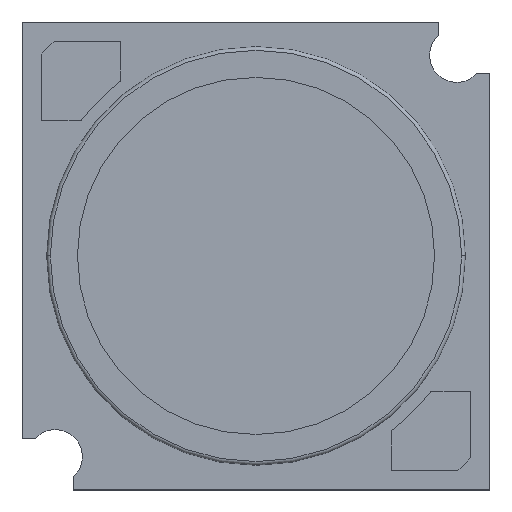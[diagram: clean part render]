
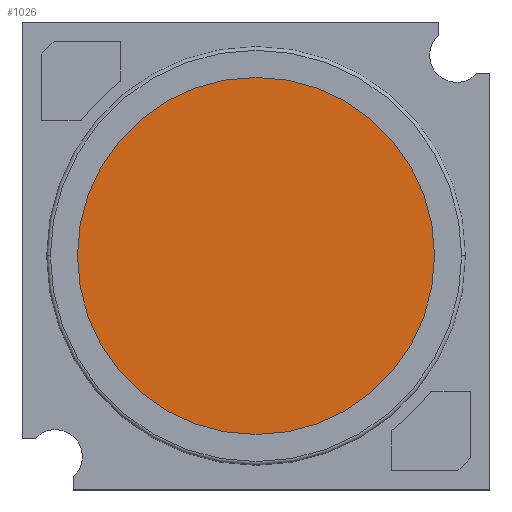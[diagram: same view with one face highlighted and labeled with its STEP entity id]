
A CAD part, top view. The second image highlights one B-rep face of the part: STEP entity #1026.
In plain terms, the highlighted planar face has unit normal (0, 0, 1).
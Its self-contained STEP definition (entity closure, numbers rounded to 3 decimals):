
#360=CARTESIAN_POINT('',(0.,0.,1.49));
#361=DIRECTION('',(0.,0.,1.));
#362=DIRECTION('',(1.,0.,0.));
#363=AXIS2_PLACEMENT_3D('',#360,#361,#362);
#365=CARTESIAN_POINT('',(0.,0.,1.49));
#366=DIRECTION('',(0.,0.,1.));
#367=DIRECTION('',(-1.,0.,0.));
#368=AXIS2_PLACEMENT_3D('',#365,#366,#367);
#482=CARTESIAN_POINT('',(7.25,0.,1.49));
#483=CARTESIAN_POINT('',(-7.25,0.,1.49));
#484=VERTEX_POINT('',#482);
#485=VERTEX_POINT('',#483);
#1017=CARTESIAN_POINT('',(0.,0.,1.49));
#1018=DIRECTION('',(0.,0.,1.));
#1019=DIRECTION('',(1.,0.,0.));
#1020=AXIS2_PLACEMENT_3D('',#1017,#1018,#1019);
#1021=PLANE('',#1020);
#1022=ORIENTED_EDGE('',*,*,#997,.F.);
#1023=ORIENTED_EDGE('',*,*,#1011,.F.);
#1024=EDGE_LOOP('',(#1022,#1023));
#1025=FACE_OUTER_BOUND('',#1024,.F.);
#1026=ADVANCED_FACE('',(#1025),#1021,.T.);
#364=CIRCLE('',#363,7.25);
#369=CIRCLE('',#368,7.25);
#997=EDGE_CURVE('',#484,#485,#364,.T.);
#1011=EDGE_CURVE('',#485,#484,#369,.T.);
